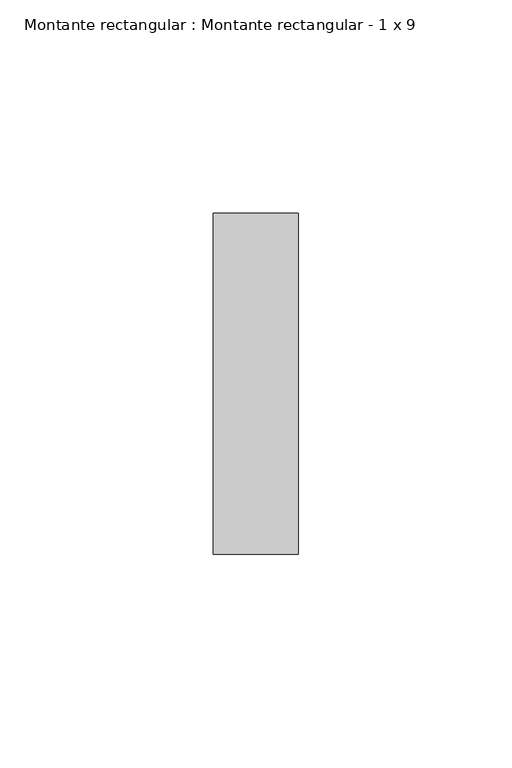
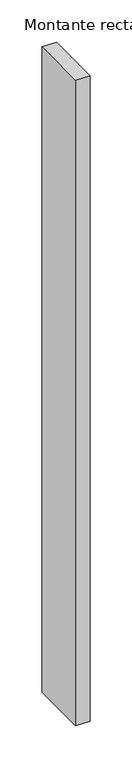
"""IFC4 building model written with IfcOpenShell, lengths in millimetres: member geometry, Montante rectangular : Montante rectangular - 1 x 9."""

from ifc_helpers import new_model, si_unit, frame, origin, place, context, project, spatial, polyline, outline, extrude, source, transform, mapped, element, save


def montante_rectangular_montante_rectangular_1_x_9_1996176d(model_context):
    return source(origin(), model_context, "Body", "SweptSolid", [
        extrude(outline(polyline([(10.0, -140.0), (-10.0, -140.0), (-10.0, -60.0), (10.0, -60.0), (10.0, -140.0)])), frame((0.0, 0.0, -936.3914841), z_axis=(0.0, 0.0, 1.0), x_axis=(1.0, 0.0, 0.0)), (0.0, 0.0, 1.0), 936.3914841),
    ])


if __name__ == "__main__":
    model = new_model("IFC4")
    model_context = context("Model", 3, world=origin())
    ifc_project = project(units=[si_unit("LENGTHUNIT", "METRE", prefix="MILLI")], contexts=[model_context])
    site = spatial("IfcSite", under=ifc_project)
    building = spatial("IfcBuilding", under=site)
    placement = place(None, origin())
    montante_rectangular_montante_rectangular_1_x_9_shape = montante_rectangular_montante_rectangular_1_x_9_1996176d(model_context)
    element("IfcMember", 1, ObjectType="Montante rectangular : Montante rectangular - 1 x 9", at=placement, inside=building, context=model_context, shape_type="MappedRepresentation", body=[
        mapped(montante_rectangular_montante_rectangular_1_x_9_shape, transform((0.0, 0.0, 0.0), x_axis=(1.0, 0.0, 0.0), y_axis=(0.0, 1.0, 0.0), z_axis=(0.0, 0.0, 1.0))),
    ])
    save(model, "model.ifc")
